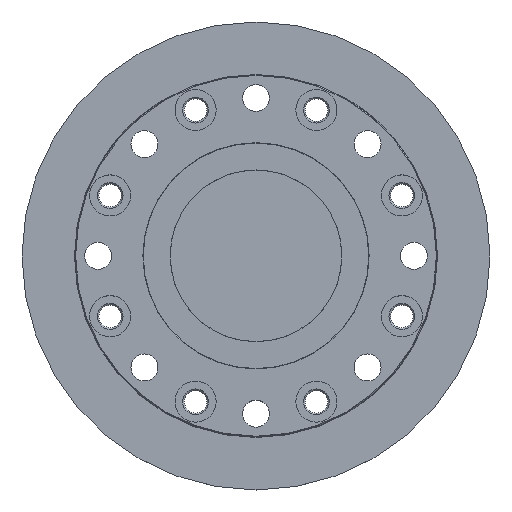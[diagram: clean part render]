
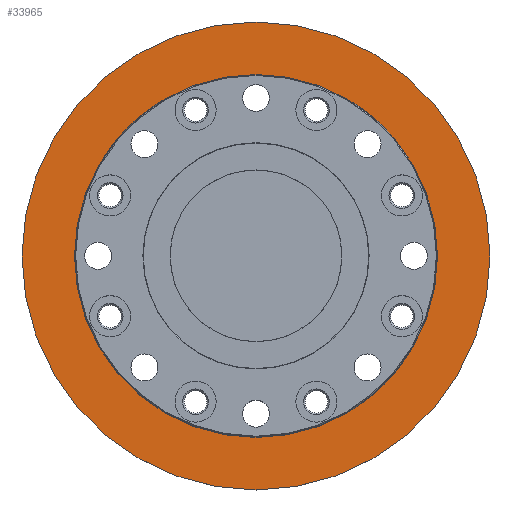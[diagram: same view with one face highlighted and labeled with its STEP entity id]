
A CAD part, top view. The second image highlights one B-rep face of the part: STEP entity #33965.
In plain terms, the highlighted planar face has unit normal (0, 0, 1).
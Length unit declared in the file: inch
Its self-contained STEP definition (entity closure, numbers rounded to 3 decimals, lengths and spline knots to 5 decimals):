
#868 = FACE_OUTER_BOUND ( 'NONE', #10707, .T. ) ;
#1112 = DIRECTION ( 'NONE',  ( 0., 0., -1. ) ) ;
#2977 = DIRECTION ( 'NONE',  ( -1., 0., 0. ) ) ;
#3213 = ORIENTED_EDGE ( 'NONE', *, *, #33809, .T. ) ;
#4400 = VERTEX_POINT ( 'NONE', #36284 ) ;
#5594 = CARTESIAN_POINT ( 'NONE',  ( 5.72, 0., -0.989 ) ) ;
#6091 = ORIENTED_EDGE ( 'NONE', *, *, #17511, .T. ) ;
#8930 = EDGE_CURVE ( 'NONE', #21815, #10627, #14499, .T. ) ;
#9259 = CARTESIAN_POINT ( 'NONE',  ( 0., 0., -0.989 ) ) ;
#9736 = AXIS2_PLACEMENT_3D ( 'NONE', #35018, #12705, #38778 ) ;
#10627 = VERTEX_POINT ( 'NONE', #39551 ) ;
#10707 = EDGE_LOOP ( 'NONE', ( #47551, #46198 ) ) ;
#11797 = CARTESIAN_POINT ( 'NONE',  ( 0., 0., -0.989 ) ) ;
#11847 = CIRCLE ( 'NONE', #36010, 5.72 ) ;
#12705 = DIRECTION ( 'NONE',  ( 0., 0., -1. ) ) ;
#13030 = PLANE ( 'NONE',  #27236 ) ;
#14499 = CIRCLE ( 'NONE', #19201, 5.72 ) ;
#15581 = DIRECTION ( 'NONE',  ( -1., 0., 0. ) ) ;
#16791 = DIRECTION ( 'NONE',  ( 0., 0., -1. ) ) ;
#17511 = EDGE_CURVE ( 'NONE', #4400, #38461, #26586, .T. ) ;
#19201 = AXIS2_PLACEMENT_3D ( 'NONE', #11797, #37880, #15581 ) ;
#19521 = CIRCLE ( 'NONE', #9736, 4.437 ) ;
#21815 = VERTEX_POINT ( 'NONE', #5594 ) ;
#23419 = CARTESIAN_POINT ( 'NONE',  ( 0., 0., -0.989 ) ) ;
#25311 = DIRECTION ( 'NONE',  ( 0., 0., -1. ) ) ;
#26586 = CIRCLE ( 'NONE', #40636, 4.437 ) ;
#27105 = FACE_BOUND ( 'NONE', #39861, .T. ) ;
#27196 = DIRECTION ( 'NONE',  ( -1., 0., 0. ) ) ;
#27236 = AXIS2_PLACEMENT_3D ( 'NONE', #9259, #16791, #42804 ) ;
#33766 = CARTESIAN_POINT ( 'NONE',  ( -4.437, 0., -0.989 ) ) ;
#33809 = EDGE_CURVE ( 'NONE', #38461, #4400, #19521, .T. ) ;
#33965 = ADVANCED_FACE ( 'NONE', ( #27105, #868 ), #13030, .F. ) ;
#35018 = CARTESIAN_POINT ( 'NONE',  ( 0., 0., -0.989 ) ) ;
#36010 = AXIS2_PLACEMENT_3D ( 'NONE', #47588, #25311, #2977 ) ;
#36284 = CARTESIAN_POINT ( 'NONE',  ( 4.437, 0., -0.989 ) ) ;
#37880 = DIRECTION ( 'NONE',  ( 0., 0., -1. ) ) ;
#38283 = EDGE_CURVE ( 'NONE', #10627, #21815, #11847, .T. ) ;
#38461 = VERTEX_POINT ( 'NONE', #33766 ) ;
#38778 = DIRECTION ( 'NONE',  ( -1., 0., 0. ) ) ;
#39551 = CARTESIAN_POINT ( 'NONE',  ( -5.72, 0., -0.989 ) ) ;
#39861 = EDGE_LOOP ( 'NONE', ( #3213, #6091 ) ) ;
#40636 = AXIS2_PLACEMENT_3D ( 'NONE', #23419, #1112, #27196 ) ;
#42804 = DIRECTION ( 'NONE',  ( -1., 0., 0. ) ) ;
#46198 = ORIENTED_EDGE ( 'NONE', *, *, #8930, .F. ) ;
#47551 = ORIENTED_EDGE ( 'NONE', *, *, #38283, .F. ) ;
#47588 = CARTESIAN_POINT ( 'NONE',  ( 0., 0., -0.989 ) ) ;
